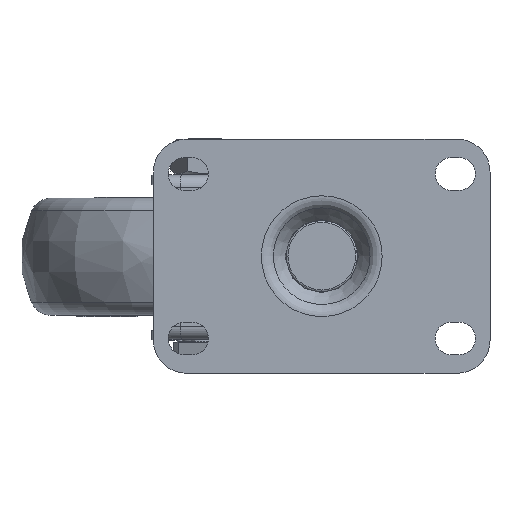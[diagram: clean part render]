
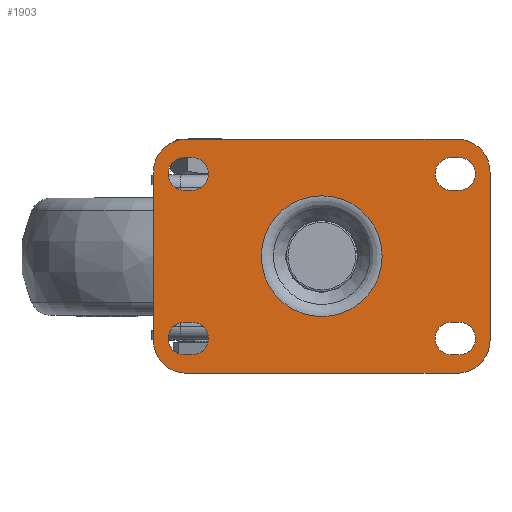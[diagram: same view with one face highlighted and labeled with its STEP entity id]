
A CAD part, top view. The second image highlights one B-rep face of the part: STEP entity #1903.
In plain terms, the highlighted planar face has unit normal (0, 0, 1).
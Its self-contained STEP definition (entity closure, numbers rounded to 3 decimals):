
#1903=ADVANCED_FACE('',(#5415,#5416,#5417,#5418,#5419,#5420),#2408,.F.);
#2408=PLANE('',#15740);
#4037=LINE('',#30465,#5112);
#4038=LINE('',#30470,#5113);
#4039=LINE('',#30473,#5114);
#4040=LINE('',#30478,#5115);
#4041=LINE('',#30481,#5116);
#4042=LINE('',#30486,#5117);
#4043=LINE('',#30489,#5118);
#4044=LINE('',#30494,#5119);
#4045=LINE('',#30497,#5120);
#4046=LINE('',#30500,#5121);
#4047=LINE('',#30504,#5122);
#4048=LINE('',#30508,#5123);
#4049=LINE('',#30510,#5124);
#4050=LINE('',#30514,#5125);
#5112=VECTOR('',#19145,1.);
#5113=VECTOR('',#19148,1.);
#5114=VECTOR('',#19151,1.);
#5115=VECTOR('',#19154,1.);
#5116=VECTOR('',#19157,1.);
#5117=VECTOR('',#19160,1.);
#5118=VECTOR('',#19163,1.);
#5119=VECTOR('',#19166,1.);
#5120=VECTOR('',#19169,1.);
#5121=VECTOR('',#19170,1.);
#5122=VECTOR('',#19173,1.);
#5123=VECTOR('',#19176,1.);
#5124=VECTOR('',#19177,1.);
#5125=VECTOR('',#19180,1.);
#5415=FACE_BOUND('',#6396,.T.);
#5416=FACE_BOUND('',#6397,.T.);
#5417=FACE_BOUND('',#6398,.T.);
#5418=FACE_BOUND('',#6399,.T.);
#5419=FACE_BOUND('',#6400,.T.);
#5420=FACE_BOUND('',#6401,.T.);
#6396=EDGE_LOOP('',(#10454));
#6397=EDGE_LOOP('',(#10455,#10456,#10457,#10458));
#6398=EDGE_LOOP('',(#10459,#10460,#10461,#10462));
#6399=EDGE_LOOP('',(#10463,#10464,#10465,#10466));
#6400=EDGE_LOOP('',(#10467,#10468,#10469,#10470));
#6401=EDGE_LOOP('',(#10471,#10472,#10473,#10474,#10475,#10476,#10477,#10478,
#10479,#10480));
#10454=ORIENTED_EDGE('',*,*,#14049,.T.);
#10455=ORIENTED_EDGE('',*,*,#14050,.F.);
#10456=ORIENTED_EDGE('',*,*,#14051,.F.);
#10457=ORIENTED_EDGE('',*,*,#14052,.F.);
#10458=ORIENTED_EDGE('',*,*,#14053,.F.);
#10459=ORIENTED_EDGE('',*,*,#14054,.F.);
#10460=ORIENTED_EDGE('',*,*,#14055,.F.);
#10461=ORIENTED_EDGE('',*,*,#14056,.F.);
#10462=ORIENTED_EDGE('',*,*,#14057,.F.);
#10463=ORIENTED_EDGE('',*,*,#14058,.F.);
#10464=ORIENTED_EDGE('',*,*,#14059,.F.);
#10465=ORIENTED_EDGE('',*,*,#14060,.F.);
#10466=ORIENTED_EDGE('',*,*,#14061,.F.);
#10467=ORIENTED_EDGE('',*,*,#14062,.F.);
#10468=ORIENTED_EDGE('',*,*,#14063,.F.);
#10469=ORIENTED_EDGE('',*,*,#14064,.F.);
#10470=ORIENTED_EDGE('',*,*,#14065,.F.);
#10471=ORIENTED_EDGE('',*,*,#14066,.T.);
#10472=ORIENTED_EDGE('',*,*,#14067,.T.);
#10473=ORIENTED_EDGE('',*,*,#14068,.T.);
#10474=ORIENTED_EDGE('',*,*,#14069,.T.);
#10475=ORIENTED_EDGE('',*,*,#14070,.T.);
#10476=ORIENTED_EDGE('',*,*,#14071,.T.);
#10477=ORIENTED_EDGE('',*,*,#14072,.T.);
#10478=ORIENTED_EDGE('',*,*,#14073,.T.);
#10479=ORIENTED_EDGE('',*,*,#14074,.T.);
#10480=ORIENTED_EDGE('',*,*,#14075,.T.);
#11987=VERTEX_POINT('',#30463);
#11988=VERTEX_POINT('',#30466);
#11989=VERTEX_POINT('',#30467);
#11990=VERTEX_POINT('',#30469);
#11991=VERTEX_POINT('',#30471);
#11992=VERTEX_POINT('',#30474);
#11993=VERTEX_POINT('',#30475);
#11994=VERTEX_POINT('',#30477);
#11995=VERTEX_POINT('',#30479);
#11996=VERTEX_POINT('',#30482);
#11997=VERTEX_POINT('',#30483);
#11998=VERTEX_POINT('',#30485);
#11999=VERTEX_POINT('',#30487);
#12000=VERTEX_POINT('',#30490);
#12001=VERTEX_POINT('',#30491);
#12002=VERTEX_POINT('',#30493);
#12003=VERTEX_POINT('',#30495);
#12004=VERTEX_POINT('',#30498);
#12005=VERTEX_POINT('',#30499);
#12006=VERTEX_POINT('',#30501);
#12007=VERTEX_POINT('',#30503);
#12008=VERTEX_POINT('',#30505);
#12009=VERTEX_POINT('',#30507);
#12010=VERTEX_POINT('',#30509);
#12011=VERTEX_POINT('',#30511);
#12012=VERTEX_POINT('',#30513);
#12013=VERTEX_POINT('',#30515);
#14049=EDGE_CURVE('',#11987,#11987,#14532,.T.);
#14050=EDGE_CURVE('',#11988,#11989,#4037,.T.);
#14051=EDGE_CURVE('',#11990,#11988,#14533,.T.);
#14052=EDGE_CURVE('',#11991,#11990,#4038,.T.);
#14053=EDGE_CURVE('',#11989,#11991,#14534,.T.);
#14054=EDGE_CURVE('',#11992,#11993,#4039,.T.);
#14055=EDGE_CURVE('',#11994,#11992,#14535,.T.);
#14056=EDGE_CURVE('',#11995,#11994,#4040,.T.);
#14057=EDGE_CURVE('',#11993,#11995,#14536,.T.);
#14058=EDGE_CURVE('',#11996,#11997,#4041,.T.);
#14059=EDGE_CURVE('',#11998,#11996,#14537,.T.);
#14060=EDGE_CURVE('',#11999,#11998,#4042,.T.);
#14061=EDGE_CURVE('',#11997,#11999,#14538,.T.);
#14062=EDGE_CURVE('',#12000,#12001,#4043,.T.);
#14063=EDGE_CURVE('',#12002,#12000,#14539,.T.);
#14064=EDGE_CURVE('',#12003,#12002,#4044,.T.);
#14065=EDGE_CURVE('',#12001,#12003,#14540,.T.);
#14066=EDGE_CURVE('',#12004,#12005,#4045,.T.);
#14067=EDGE_CURVE('',#12005,#12006,#4046,.T.);
#14068=EDGE_CURVE('',#12006,#12007,#14541,.T.);
#14069=EDGE_CURVE('',#12007,#12008,#4047,.T.);
#14070=EDGE_CURVE('',#12008,#12009,#14542,.T.);
#14071=EDGE_CURVE('',#12009,#12010,#4048,.T.);
#14072=EDGE_CURVE('',#12010,#12011,#4049,.T.);
#14073=EDGE_CURVE('',#12011,#12012,#14543,.T.);
#14074=EDGE_CURVE('',#12012,#12013,#4050,.T.);
#14075=EDGE_CURVE('',#12013,#12004,#14544,.T.);
#14532=CIRCLE('',#15726,16.522);
#14533=CIRCLE('',#15728,4.5);
#14534=CIRCLE('',#15729,4.5);
#14535=CIRCLE('',#15730,4.5);
#14536=CIRCLE('',#15731,4.5);
#14537=CIRCLE('',#15732,4.5);
#14538=CIRCLE('',#15733,4.5);
#14539=CIRCLE('',#15734,4.5);
#14540=CIRCLE('',#15735,4.5);
#14541=CIRCLE('',#15736,9.);
#14542=CIRCLE('',#15737,9.);
#14543=CIRCLE('',#15738,9.);
#14544=CIRCLE('',#15739,9.);
#15726=AXIS2_PLACEMENT_3D('',#30462,#19141,#19142);
#15728=AXIS2_PLACEMENT_3D('',#30468,#19146,#19147);
#15729=AXIS2_PLACEMENT_3D('',#30472,#19149,#19150);
#15730=AXIS2_PLACEMENT_3D('',#30476,#19152,#19153);
#15731=AXIS2_PLACEMENT_3D('',#30480,#19155,#19156);
#15732=AXIS2_PLACEMENT_3D('',#30484,#19158,#19159);
#15733=AXIS2_PLACEMENT_3D('',#30488,#19161,#19162);
#15734=AXIS2_PLACEMENT_3D('',#30492,#19164,#19165);
#15735=AXIS2_PLACEMENT_3D('',#30496,#19167,#19168);
#15736=AXIS2_PLACEMENT_3D('',#30502,#19171,#19172);
#15737=AXIS2_PLACEMENT_3D('',#30506,#19174,#19175);
#15738=AXIS2_PLACEMENT_3D('',#30512,#19178,#19179);
#15739=AXIS2_PLACEMENT_3D('',#30516,#19181,#19182);
#15740=AXIS2_PLACEMENT_3D('',#30517,#19183,#19184);
#19141=DIRECTION('',(0.,0.,-1.));
#19142=DIRECTION('',(-1.,0.,0.));
#19145=DIRECTION('',(1.,0.,0.));
#19146=DIRECTION('',(0.,0.,1.));
#19147=DIRECTION('',(1.,0.,0.));
#19148=DIRECTION('',(-1.,0.,0.));
#19149=DIRECTION('',(0.,0.,1.));
#19150=DIRECTION('',(1.,0.,0.));
#19151=DIRECTION('',(1.,0.,0.));
#19152=DIRECTION('',(0.,0.,1.));
#19153=DIRECTION('',(1.,0.,0.));
#19154=DIRECTION('',(-1.,0.,0.));
#19155=DIRECTION('',(0.,0.,1.));
#19156=DIRECTION('',(1.,0.,0.));
#19157=DIRECTION('',(1.,0.,0.));
#19158=DIRECTION('',(0.,0.,1.));
#19159=DIRECTION('',(1.,0.,0.));
#19160=DIRECTION('',(-1.,0.,0.));
#19161=DIRECTION('',(0.,0.,1.));
#19162=DIRECTION('',(1.,0.,0.));
#19163=DIRECTION('',(1.,0.,0.));
#19164=DIRECTION('',(0.,0.,1.));
#19165=DIRECTION('',(1.,0.,0.));
#19166=DIRECTION('',(-1.,0.,0.));
#19167=DIRECTION('',(0.,0.,1.));
#19168=DIRECTION('',(1.,0.,0.));
#19169=DIRECTION('',(-1.,0.,0.));
#19170=DIRECTION('',(-1.,0.,0.));
#19171=DIRECTION('',(0.,0.,1.));
#19172=DIRECTION('',(1.,0.,0.));
#19173=DIRECTION('',(0.,-1.,0.));
#19174=DIRECTION('',(0.,0.,1.));
#19175=DIRECTION('',(1.,0.,0.));
#19176=DIRECTION('',(1.,0.,0.));
#19177=DIRECTION('',(1.,0.,0.));
#19178=DIRECTION('',(0.,0.,1.));
#19179=DIRECTION('',(-1.,0.,0.));
#19180=DIRECTION('',(0.,1.,0.));
#19181=DIRECTION('',(0.,0.,1.));
#19182=DIRECTION('',(-1.,0.,0.));
#19183=DIRECTION('',(0.,0.,-1.));
#19184=DIRECTION('',(1.,0.,0.));
#30462=CARTESIAN_POINT('',(0.,0.,0.));
#30463=CARTESIAN_POINT('',(-16.522,0.,0.));
#30465=CARTESIAN_POINT('',(-37.5,18.,0.));
#30466=CARTESIAN_POINT('',(-37.5,18.,0.));
#30467=CARTESIAN_POINT('',(-35.5,18.,0.));
#30468=CARTESIAN_POINT('',(-37.5,22.5,0.));
#30469=CARTESIAN_POINT('',(-37.5,27.,0.));
#30470=CARTESIAN_POINT('',(-37.5,27.,0.));
#30471=CARTESIAN_POINT('',(-35.5,27.,0.));
#30472=CARTESIAN_POINT('',(-35.5,22.5,0.));
#30473=CARTESIAN_POINT('',(-37.5,-27.,0.));
#30474=CARTESIAN_POINT('',(-37.5,-27.,0.));
#30475=CARTESIAN_POINT('',(-35.5,-27.,0.));
#30476=CARTESIAN_POINT('',(-37.5,-22.5,0.));
#30477=CARTESIAN_POINT('',(-37.5,-18.,0.));
#30478=CARTESIAN_POINT('',(-37.5,-18.,0.));
#30479=CARTESIAN_POINT('',(-35.5,-18.,0.));
#30480=CARTESIAN_POINT('',(-35.5,-22.5,0.));
#30481=CARTESIAN_POINT('',(35.5,-27.,0.));
#30482=CARTESIAN_POINT('',(35.5,-27.,0.));
#30483=CARTESIAN_POINT('',(37.5,-27.,0.));
#30484=CARTESIAN_POINT('',(35.5,-22.5,0.));
#30485=CARTESIAN_POINT('',(35.5,-18.,0.));
#30486=CARTESIAN_POINT('',(35.5,-18.,0.));
#30487=CARTESIAN_POINT('',(37.5,-18.,0.));
#30488=CARTESIAN_POINT('',(37.5,-22.5,0.));
#30489=CARTESIAN_POINT('',(35.5,18.,0.));
#30490=CARTESIAN_POINT('',(35.5,18.,0.));
#30491=CARTESIAN_POINT('',(37.5,18.,0.));
#30492=CARTESIAN_POINT('',(35.5,22.5,0.));
#30493=CARTESIAN_POINT('',(35.5,27.,0.));
#30494=CARTESIAN_POINT('',(35.5,27.,0.));
#30495=CARTESIAN_POINT('',(37.5,27.,0.));
#30496=CARTESIAN_POINT('',(37.5,22.5,0.));
#30497=CARTESIAN_POINT('',(-37.,32.,0.));
#30498=CARTESIAN_POINT('',(37.,32.,0.));
#30499=CARTESIAN_POINT('',(0.,32.,0.));
#30500=CARTESIAN_POINT('',(-37.,32.,0.));
#30501=CARTESIAN_POINT('',(-37.,32.,0.));
#30502=CARTESIAN_POINT('',(-37.,23.,0.));
#30503=CARTESIAN_POINT('',(-46.,23.,0.));
#30504=CARTESIAN_POINT('',(-46.,23.,0.));
#30505=CARTESIAN_POINT('',(-46.,-23.,0.));
#30506=CARTESIAN_POINT('',(-37.,-23.,0.));
#30507=CARTESIAN_POINT('',(-37.,-32.,0.));
#30508=CARTESIAN_POINT('',(-37.,-32.,0.));
#30509=CARTESIAN_POINT('',(0.,-32.,0.));
#30510=CARTESIAN_POINT('',(-37.,-32.,0.));
#30511=CARTESIAN_POINT('',(37.,-32.,0.));
#30512=CARTESIAN_POINT('',(37.,-23.,0.));
#30513=CARTESIAN_POINT('',(46.,-23.,0.));
#30514=CARTESIAN_POINT('',(46.,23.,0.));
#30515=CARTESIAN_POINT('',(46.,23.,0.));
#30516=CARTESIAN_POINT('',(37.,23.,0.));
#30517=CARTESIAN_POINT('',(-32.,0.,0.));
